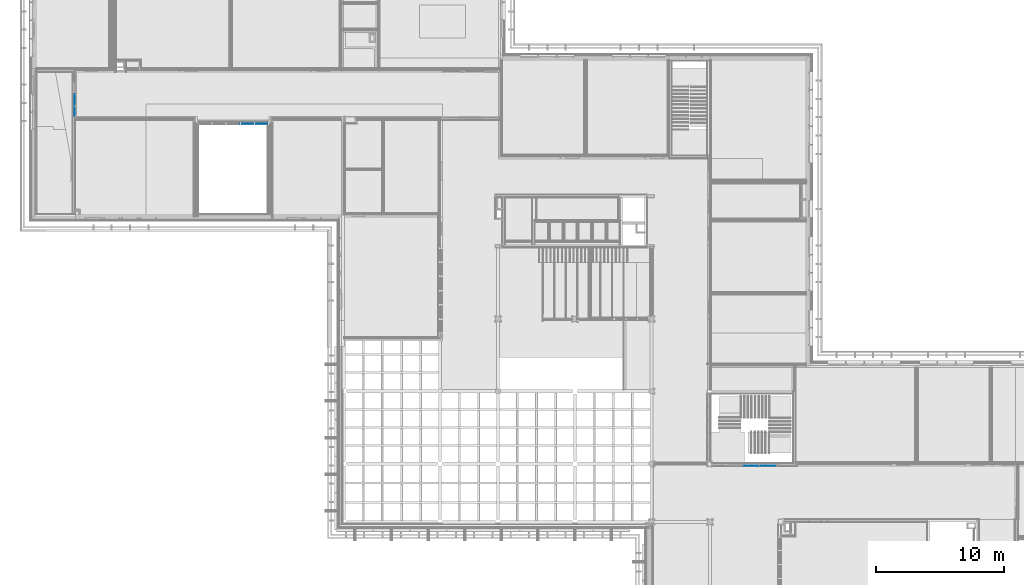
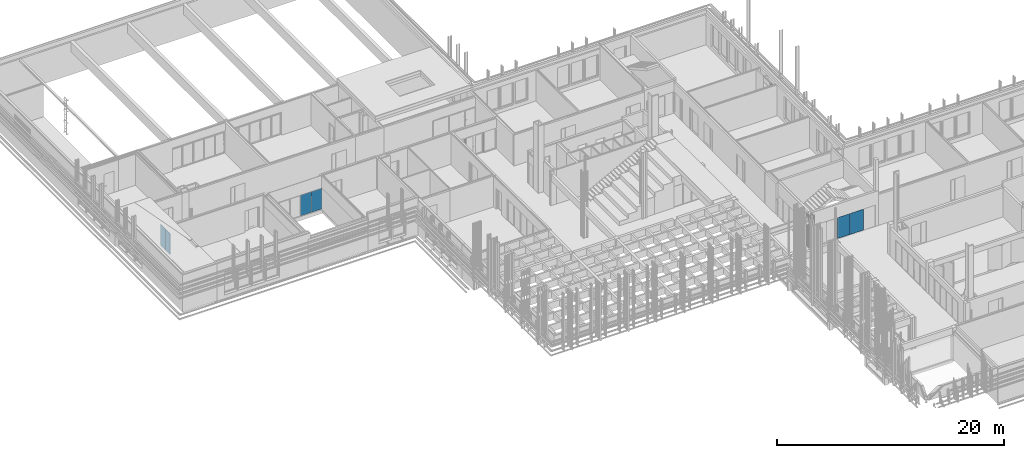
# One storey, part 52 of 139: 6 plates, 3 elements without a shape of their own.
"""IFC2X3 building model written with IfcOpenShell, lengths in millimetres."""

from ifc_helpers import new_model, entity, si_unit, converted_unit, derived_unit, money_unit, direction, frame, origin_with_axes, place, context, subcontext, project, spatial, faceted_brep, material, type_object, element, aggregate, save


model = new_model("IFC2X3")

# Units and contexts
model_context = context("Model", 3, precision=0.01, world=origin_with_axes(), true_north=direction((0.0, 1.0)))
body_context = subcontext(model_context, "Body", "Model", "MODEL_VIEW")
ifc_project = project(units=[si_unit("LENGTHUNIT", "METRE", prefix="MILLI"), si_unit("AREAUNIT", "SQUARE_METRE"), si_unit("VOLUMEUNIT", "CUBIC_METRE"), converted_unit("PLANEANGLEUNIT", "DEGREE", entity("IfcPlaneAngleMeasure", 0.0174532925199), si_unit("PLANEANGLEUNIT", "RADIAN"), dimensions=[0, 0, 0, 0, 0, 0, 0]), money_unit("EUR"), converted_unit("TIMEUNIT", "Year", entity("IfcTimeMeasure", 31556926.0), si_unit("TIMEUNIT", "SECOND"), dimensions=[0, 0, 1, 0, 0, 0, 0]), si_unit("MASSUNIT", "GRAM", prefix="KILO"), si_unit("THERMODYNAMICTEMPERATUREUNIT", "DEGREE_CELSIUS"), si_unit("LUMINOUSINTENSITYUNIT", "LUMEN"), si_unit("ENERGYUNIT", "JOULE", prefix="MEGA"), derived_unit("THERMALCONDUCTANCEUNIT", [(si_unit("POWERUNIT", "WATT"), 1), (si_unit("LENGTHUNIT", "METRE"), -1), (si_unit("THERMODYNAMICTEMPERATUREUNIT", "KELVIN"), -1)]), derived_unit("SPECIFICHEATCAPACITYUNIT", [(si_unit("ENERGYUNIT", "JOULE"), 1), (si_unit("MASSUNIT", "GRAM", prefix="KILO"), -1), (si_unit("THERMODYNAMICTEMPERATUREUNIT", "KELVIN"), -1)]), derived_unit("MASSDENSITYUNIT", [(si_unit("MASSUNIT", "GRAM", prefix="KILO"), 1), (si_unit("VOLUMEUNIT", "CUBIC_METRE"), -1)])], contexts=[model_context])

# Site, building, storey
site_placement = place(None, origin_with_axes())
site = spatial("IfcSite", under=ifc_project, at=site_placement, Name="Kolde pst 67a", CompositionType="ELEMENT")
building_placement = place(site_placement, origin_with_axes())
building = spatial("IfcBuilding", under=site, at=building_placement, Name="Riigigümnaasium", CompositionType="ELEMENT")
storey_placement = place(building_placement, frame((0.0, 0.0, 4600.0), z_axis=(0.0, 0.0, 1.0), x_axis=(1.0, 0.0, 0.0)))
storey = spatial("IfcBuildingStorey", under=building, at=storey_placement, Name="2. korrus", CompositionType="ELEMENT", Elevation=4600.0)

# Curtain wall, plates
curtain_wall_type = type_object("IfcCurtainWallType", Name="Curtain Wall Type", PredefinedType="NOTDEFINED")
curtain_wall_1_placement = place(storey_placement, frame((3208.80952236, 58094.9979478, 0.0), z_axis=(0.0, 0.0, 1.0), x_axis=(1.0, 0.0, 0.0)))
curtain_wall_1 = element("IfcCurtainWall", 1, at=curtain_wall_1_placement, inside=storey, type_object=curtain_wall_type, Name="KLAASSEIN")
ifc_material = material(Name="_GENEERILINE MATERJAL KLAAS")
plate_type_1 = type_object("IfcPlateType", Name="Distinct Panel 20 x 2300 x 20", PredefinedType="NOTDEFINED")
plate_1_placement = place(curtain_wall_1_placement, frame((0.0, -1685.00117902, 1150.0000447), z_axis=(0.0, 0.0, 1.0), x_axis=(0.0, 1.0, 0.0)))
plate_1 = element("IfcPlate", 2, at=plate_1_placement, type_object=plate_type_1, material=ifc_material, Name="RF PANEEL ERI-052", context=body_context, shape_type="Brep", body=[
    faceted_brep([(335.00115913, -10.0, 1150.0000447), (355.001167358, -10.0, 1150.0000447), (355.001167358, 10.0, 1150.0000447), (335.00115913, 10.0, 1150.0000447), (335.00115913, -10.0, 1130.00003648), (185.001183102, -10.0, 1130.00003648), (-500.002363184, -10.0, 1130.00003648), (-500.002363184, -10.0, -1130.00003648), (185.001183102, -10.0, -1130.00003648), (335.00115913, -10.0, -1130.00003648), (335.00115913, -10.0, -1150.0000447), (355.001167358, -10.0, -1150.0000447), (355.001167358, 10.0, -1150.0000447), (335.00115913, 10.0, -1150.0000447), (335.00115913, 10.0, -1130.00003648), (185.001183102, 10.0, -1130.00003648), (-500.002363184, 10.0, -1130.00003648), (-500.002363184, 10.0, 1130.00003648), (185.001183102, 10.0, 1130.00003648), (335.00115913, 10.0, 1130.00003648)], [[[0, 1, 2, 3]], [[0, 4, 5, 6, 7, 8, 9, 10, 11, 1]], [[1, 11, 12, 2]], [[3, 2, 12, 13, 14, 15, 16, 17, 18, 19]], [[4, 0, 3, 19]], [[5, 4, 19, 18]], [[6, 5, 18, 17]], [[7, 6, 17, 16]], [[8, 7, 16, 15]], [[9, 8, 15, 14]], [[10, 9, 14, 13]], [[11, 10, 13, 12]]]),
])
plate_type_2 = type_object("IfcPlateType", Name="Distinct Panel 20 x 20 x 20", PredefinedType="NOTDEFINED")
plate_2_placement = place(curtain_wall_1_placement, frame((0.0, -925.00000583, 1150.0000447), z_axis=(0.0, 0.0, 1.0), x_axis=(0.0, 1.0, 0.0)))
plate_2 = element("IfcPlate", 3, at=plate_2_placement, type_object=plate_type_2, material=ifc_material, Name="RF PANEEL ERI-051", context=body_context, shape_type="Brep", body=[
    faceted_brep([(-445.000000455, -10.0, 1150.0000447), (-425.000026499, -10.0, 1150.0000447), (-425.000026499, 10.0, 1150.0000447), (-445.000000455, 10.0, 1150.0000447), (-445.000000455, -10.0, -1150.0000447), (-425.000026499, -10.0, -1150.0000447), (-425.000026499, -10.0, -1130.00003648), (424.999997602, -10.0, -1130.00003648), (424.999997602, -10.0, -1150.0000447), (445.00000583, -10.0, -1150.0000447), (445.00000583, -10.0, 1150.0000447), (424.999997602, -10.0, 1150.0000447), (424.999997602, -10.0, 1130.00003648), (-425.000026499, -10.0, 1130.00003648), (-425.000026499, 10.0, 1130.00003648), (424.999997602, 10.0, 1130.00003648), (424.999997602, 10.0, 1150.0000447), (445.00000583, 10.0, 1150.0000447), (445.00000583, 10.0, -1150.0000447), (424.999997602, 10.0, -1150.0000447), (424.999997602, 10.0, -1130.00003648), (-425.000026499, 10.0, -1130.00003648), (-425.000026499, 10.0, -1150.0000447), (-445.000000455, 10.0, -1150.0000447)], [[[0, 1, 2, 3]], [[0, 4, 5, 6, 7, 8, 9, 10, 11, 12, 13, 1]], [[1, 13, 14, 2]], [[3, 2, 14, 15, 16, 17, 18, 19, 20, 21, 22, 23]], [[4, 0, 3, 23]], [[5, 4, 23, 22]], [[6, 5, 22, 21]], [[7, 6, 21, 20]], [[8, 7, 20, 19]], [[9, 8, 19, 18]], [[10, 9, 18, 17]], [[11, 10, 17, 16]], [[12, 11, 16, 15]], [[13, 12, 15, 14]]]),
])
aggregate(curtain_wall_1, [plate_1, plate_2])

curtain_wall_2_placement = place(storey_placement, frame((56010.5010848, 28629.9996643, -9.132059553e-06), z_axis=(0.0, 0.0, 1.0), x_axis=(1.0, 0.0, 0.0)))
curtain_wall_2 = element("IfcCurtainWall", 4, at=curtain_wall_2_placement, inside=storey, type_object=curtain_wall_type, Name="KLAASSEIN")
plate_3_placement = place(curtain_wall_2_placement, frame((0.0, 0.0, 1150.00000457), z_axis=(0.0, 0.0, 1.0), x_axis=(1.0, 0.0, 0.0)))
plate_3 = element("IfcPlate", 5, at=plate_3_placement, type_object=plate_type_2, material=ifc_material, Name="RF PANEEL ERI-054", context=body_context, shape_type="Brep", body=[
    faceted_brep([(-600.519003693, 10.0, 1150.00000457), (-600.519003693, -10.0, 1150.00000457), (-580.518996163, -10.0, 1150.00000457), (-580.518996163, 10.0, 1150.00000457), (-600.519003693, 10.0, -1150.00000457), (-600.519003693, -10.0, -1150.00000457), (-580.518996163, -10.0, -1150.00000457), (-580.518996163, -10.0, -1129.99999704), (-60.4443257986, -10.0, -1129.99999704), (640.963312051, -10.0, -1129.99999704), (640.963312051, -10.0, -1150.00000457), (660.963319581, -10.0, -1150.00000457), (660.963319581, -10.0, 1150.00000457), (640.963312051, -10.0, 1150.00000457), (640.963312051, -10.0, 1129.99999704), (-60.4443257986, -10.0, 1129.99999704), (-580.518996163, -10.0, 1129.99999704), (-580.518996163, 10.0, 1129.99999704), (-60.4443257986, 10.0, 1129.99999704), (640.963312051, 10.0, 1129.99999704), (640.963312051, 10.0, 1150.00000457), (660.963319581, 10.0, 1150.00000457), (660.963319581, 10.0, -1150.00000457), (640.963312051, 10.0, -1150.00000457), (640.963312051, 10.0, -1129.99999704), (-60.4443257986, 10.0, -1129.99999704), (-580.518996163, 10.0, -1129.99999704), (-580.518996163, 10.0, -1150.00000457)], [[[0, 1, 2, 3]], [[4, 5, 1, 0]], [[1, 5, 6, 7, 8, 9, 10, 11, 12, 13, 14, 15, 16, 2]], [[3, 2, 16, 17]], [[0, 3, 17, 18, 19, 20, 21, 22, 23, 24, 25, 26, 27, 4]], [[27, 6, 5, 4]], [[26, 7, 6, 27]], [[25, 8, 7, 26]], [[24, 9, 8, 25]], [[23, 10, 9, 24]], [[22, 11, 10, 23]], [[21, 12, 11, 22]], [[20, 13, 12, 21]], [[19, 14, 13, 20]], [[18, 15, 14, 19]], [[17, 16, 15, 18]]]),
])
plate_4_placement = place(curtain_wall_2_placement, frame((1239.03370588, 0.0, 1150.00000457), z_axis=(0.0, 0.0, 1.0), x_axis=(1.0, 0.0, 0.0)))
plate_4 = element("IfcPlate", 6, at=plate_4_placement, type_object=plate_type_2, material=ifc_material, Name="RF PANEEL ERI-053", context=body_context, shape_type="Brep", body=[
    faceted_brep([(-618.070382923, 10.0, 1150.00000457), (-618.070382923, -10.0, 1150.00000457), (-598.070409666, -10.0, 1150.00000457), (-598.070409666, 10.0, 1150.00000457), (-618.070382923, 10.0, -1150.00000457), (-618.070382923, -10.0, -1150.00000457), (-598.070409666, -10.0, -1150.00000457), (-598.070409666, -10.0, -1129.99999704), (-189.478023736, -10.0, -1129.99999704), (787.548399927, -10.0, -1129.99999704), (787.548399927, -10.0, -1150.00000457), (807.548407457, -10.0, -1150.00000457), (807.548407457, -10.0, 1150.00000457), (787.548399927, -10.0, 1150.00000457), (787.548399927, -10.0, 1129.99999704), (-189.478023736, -10.0, 1129.99999704), (-598.070409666, -10.0, 1129.99999704), (-598.070409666, 10.0, 1129.99999704), (-189.478023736, 10.0, 1129.99999704), (787.548399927, 10.0, 1129.99999704), (787.548399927, 10.0, 1150.00000457), (807.548407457, 10.0, 1150.00000457), (807.548407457, 10.0, -1150.00000457), (787.548399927, 10.0, -1150.00000457), (787.548399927, 10.0, -1129.99999704), (-189.478023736, 10.0, -1129.99999704), (-598.070409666, 10.0, -1129.99999704), (-598.070409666, 10.0, -1150.00000457)], [[[0, 1, 2, 3]], [[4, 5, 1, 0]], [[1, 5, 6, 7, 8, 9, 10, 11, 12, 13, 14, 15, 16, 2]], [[3, 2, 16, 17]], [[0, 3, 17, 18, 19, 20, 21, 22, 23, 24, 25, 26, 27, 4]], [[27, 6, 5, 4]], [[26, 7, 6, 27]], [[25, 8, 7, 26]], [[24, 9, 8, 25]], [[23, 10, 9, 24]], [[22, 11, 10, 23]], [[21, 12, 11, 22]], [[20, 13, 12, 21]], [[19, 14, 13, 20]], [[18, 15, 14, 19]], [[17, 16, 15, 18]]]),
])
aggregate(curtain_wall_2, [plate_3, plate_4])

curtain_wall_3_placement = place(storey_placement, frame((15575.0032916, 55314.9743005, 0.0), z_axis=(0.0, 0.0, 1.0), x_axis=(1.0, 0.0, 0.0)))
curtain_wall_3 = element("IfcCurtainWall", 7, at=curtain_wall_3_placement, inside=storey, type_object=curtain_wall_type, Name="KLAASSEIN")
plate_type_3 = type_object("IfcPlateType", Name="Distinct Panel 1075 x 2240 x 20", PredefinedType="NOTDEFINED")
plate_5_placement = place(curtain_wall_3_placement, frame((2219.99999983, 0.0271608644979, 1150.00004023), z_axis=(0.0, 0.0, 1.0), x_axis=(0.999999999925, 1.22346236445e-05, 0.0)))
plate_5 = element("IfcPlate", 8, at=plate_5_placement, type_object=plate_type_3, material=ifc_material, Name="RF PANEEL ERI-034", context=body_context, shape_type="Brep", body=[
    faceted_brep([(-550.000013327, 9.99999999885, 1120.00004514), (-550.000013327, -10.0000000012, 1120.00004514), (525.000004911, -10.0, 1120.00004514), (525.000004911, 9.99999999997, 1120.00004514), (-550.000013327, 9.99999999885, -1120.00004514), (-550.000013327, -10.0000000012, -1120.00004514), (525.000004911, -10.0, -1120.00004514), (525.000004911, 9.99999999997, -1120.00004514)], [[[0, 1, 2, 3]], [[4, 5, 1, 0]], [[1, 5, 6, 2]], [[3, 2, 6, 7]], [[0, 3, 7, 4]], [[7, 6, 5, 4]]]),
])
plate_type_4 = type_object("IfcPlateType", Name="Distinct Panel 1100 x 2240 x 20", PredefinedType="NOTDEFINED")
plate_6_placement = place(curtain_wall_3_placement, frame((1109.99999992, 0.0135804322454, 1150.00004023), z_axis=(0.0, 0.0, 1.0), x_axis=(0.999999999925, 1.22346236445e-05, 0.0)))
plate_6 = element("IfcPlate", 9, at=plate_6_placement, type_object=plate_type_4, material=ifc_material, Name="RF PANEEL ERI-030", context=body_context, shape_type="Brep", body=[
    faceted_brep([(-550.000013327, 9.99999999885, 1120.00004514), (-550.000013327, -10.0000000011, 1120.00004514), (549.999989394, -10.0, 1120.00004514), (549.999989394, 10.0, 1120.00004514), (-550.000013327, 9.99999999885, -1120.00004514), (-550.000013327, -10.0000000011, -1120.00004514), (549.999989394, -10.0, -1120.00004514), (549.999989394, 10.0, -1120.00004514)], [[[0, 1, 2, 3]], [[4, 5, 1, 0]], [[1, 5, 6, 2]], [[3, 2, 6, 7]], [[0, 3, 7, 4]], [[7, 6, 5, 4]]]),
])
aggregate(curtain_wall_3, [plate_6, plate_5])

save(model, "model.ifc")
